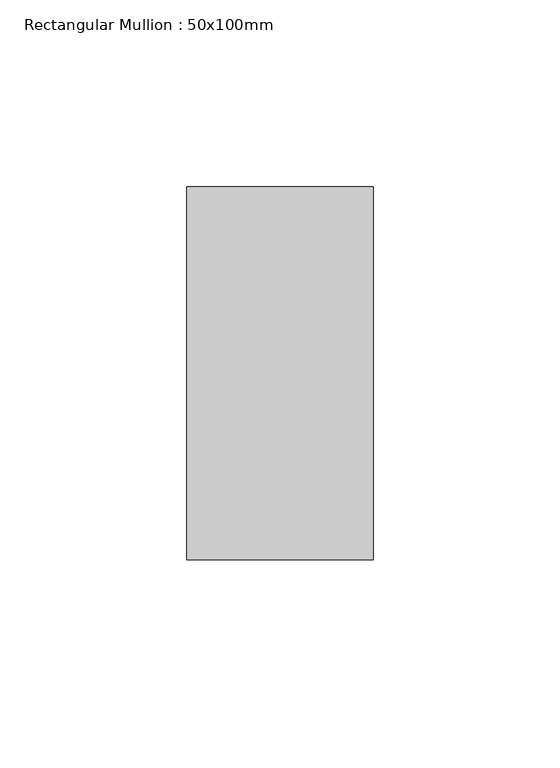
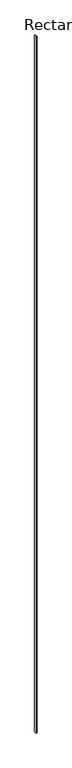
"""IFC4 building model written with IfcOpenShell, lengths in millimetres: member geometry, Rectangular Mullion : 50x100mm."""

from ifc_helpers import new_model, si_unit, frame, origin, place, context, project, spatial, polyline, outline, extrude, source, transform, mapped, element, save


def rectangular_mullion_50x100mm_15dc4efd(model_context):
    return source(origin(), model_context, "Body", "SweptSolid", [
        extrude(outline(polyline([(25.0, 50.0), (25.0, -50.0), (-25.0, -50.0), (-25.0, 50.0), (25.0, 50.0)])), frame((0.0, 0.0, -33779.3068011), z_axis=(0.0, 0.0, 1.0), x_axis=(1.0, 0.0, 0.0)), (0.0, 0.0, 1.0), 33779.3068011),
    ])


if __name__ == "__main__":
    model = new_model("IFC4")
    model_context = context("Model", 3, world=origin())
    ifc_project = project(units=[si_unit("LENGTHUNIT", "METRE", prefix="MILLI")], contexts=[model_context])
    site = spatial("IfcSite", under=ifc_project)
    building = spatial("IfcBuilding", under=site)
    placement = place(None, origin())
    rectangular_mullion_50x100mm_shape = rectangular_mullion_50x100mm_15dc4efd(model_context)
    element("IfcMember", 1, ObjectType="Rectangular Mullion : 50x100mm", at=placement, inside=building, context=model_context, shape_type="MappedRepresentation", body=[
        mapped(rectangular_mullion_50x100mm_shape, transform((0.0, 0.0, 0.0), x_axis=(1.0, 0.0, 0.0), y_axis=(0.0, 1.0, 0.0), z_axis=(0.0, 0.0, 1.0))),
    ])
    save(model, "model.ifc")
